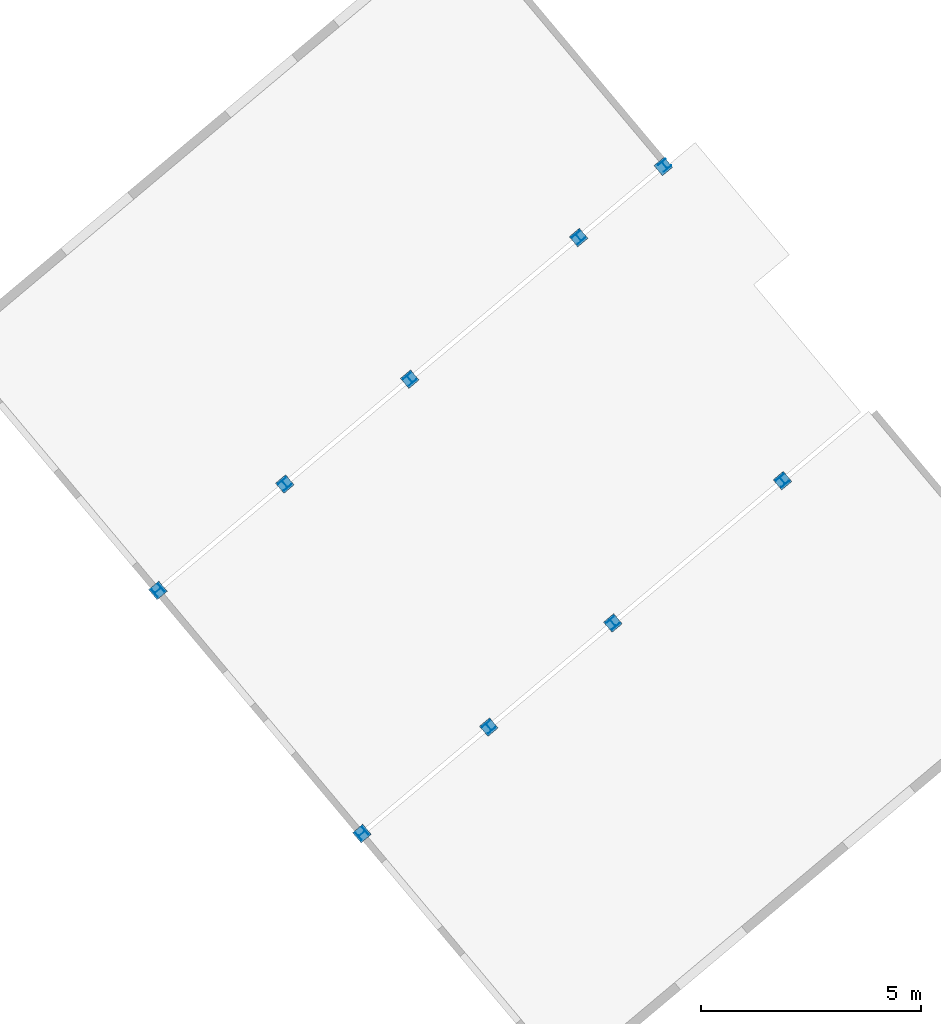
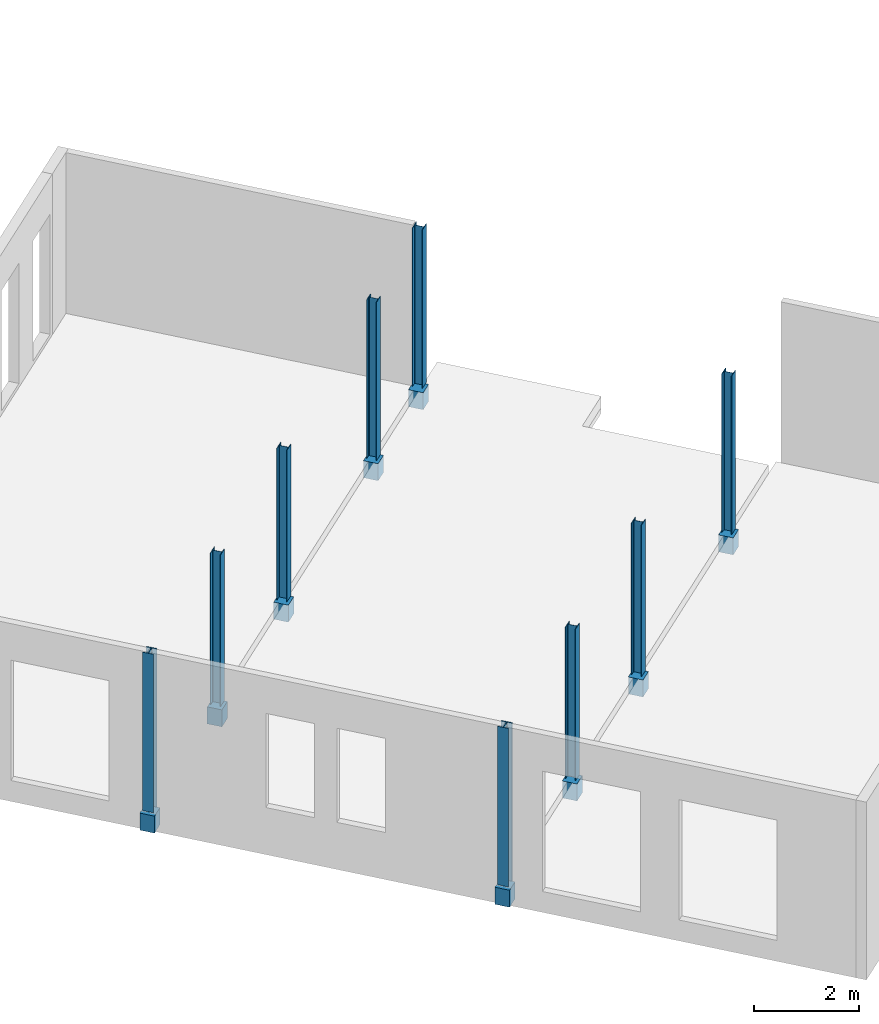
# One storey, part 1 of 3: 18 columns.
"""IFC2X3 building model written with IfcOpenShell, lengths in millimetres."""

import ifcopenshell
import ifcopenshell.guid

model = None  # the IFC model being written
_history = None  # IfcOwnerHistory: only IFC2X3 demands one
_inside = {}  # id of a spatial element -> (the spatial element, [elements in it])
_under = {}  # id of a project, library or spatial element -> (it, [spatial elements below it])
_declared = {}  # id of a project -> (the project, [libraries it declares])
_typed = {}  # id of a type object -> (the type object, [elements of that type])
_made_of = {}  # id of a material, layer set ... -> (it, [elements and type objects made of it])


def new_model(schema):
    """Start an empty IFC model of exactly this schema.

    Asked for "IFC4X3", IfcOpenShell would pick the latest addendum, in which some entities
    have other attributes; the version numbers below select the first issue.
    IFC2X3 requires an IfcOwnerHistory on every rooted entity: one is made here for all.
    """
    global model, _history
    if schema == "IFC4X3":
        model = ifcopenshell.file(schema_version=(4, 3, 0, 0))
    else:
        model = ifcopenshell.file(schema=schema)
    _inside.clear()
    _under.clear()
    _declared.clear()
    _typed.clear()
    _made_of.clear()
    _history = None
    if model.schema == "IFC2X3":
        org = make("IfcOrganization", Name="unknown")
        user = make(
            "IfcPersonAndOrganization",
            ThePerson=make("IfcPerson", FamilyName="unknown"),
            TheOrganization=org,
        )
        app = make(
            "IfcApplication",
            ApplicationDeveloper=org,
            Version="unknown",
            ApplicationFullName="unknown",
            ApplicationIdentifier="unknown",
        )
        _history = make(
            "IfcOwnerHistory",
            OwningUser=user,
            OwningApplication=app,
            ChangeAction="ADDED",
            CreationDate=0,
        )
    return model


def make(cls, **values):
    """One entity of the class cls with the attributes given. An attribute that is None is left unset."""
    return model.create_entity(
        cls, **{name: value for name, value in values.items() if value is not None}
    )


def entity(cls, *values):
    """Any entity or typed value of the class cls, its attributes in the order of the schema. None: left unset."""
    e = model.create_entity(cls)
    for i, value in enumerate(values):
        if value is not None:
            e[i] = value
    return e


def rooted(cls, **values):
    """An entity with a GlobalId (a new one), such as an element, a storey or a relation."""
    return make(cls, GlobalId=ifcopenshell.guid.new(), OwnerHistory=_history, **values)


def si_unit(unit_type, name, prefix=None):
    """IfcSIUnit, for example si_unit("LENGTHUNIT", "METRE", prefix="MILLI")."""
    return make("IfcSIUnit", UnitType=unit_type, Prefix=prefix, Name=name)


def converted_unit(unit_type, name, factor, base, dimensions=None, offset=None):
    """IfcConversionBasedUnit, such as the inch: factor (a typed value) times the base unit."""
    return make(
        "IfcConversionBasedUnit"
        if offset is None
        else "IfcConversionBasedUnitWithOffset",
        ConversionOffset=offset,
        Dimensions=None
        if dimensions is None
        else entity("IfcDimensionalExponents", *dimensions),
        UnitType=unit_type,
        Name=name,
        ConversionFactor=make(
            "IfcMeasureWithUnit", ValueComponent=factor, UnitComponent=base
        ),
    )


def derived_unit(unit_type, elements):
    """IfcDerivedUnit: a product of units, each with its exponent."""
    return make(
        "IfcDerivedUnit",
        Elements=[
            make("IfcDerivedUnitElement", Unit=unit, Exponent=power)
            for unit, power in elements
        ],
        UnitType=unit_type,
    )


def assignment(units):
    """IfcUnitAssignment: the units of a project."""
    return None if units is None else make("IfcUnitAssignment", Units=units)


def point(xyz):
    """IfcCartesianPoint."""
    return None if xyz is None else make("IfcCartesianPoint", Coordinates=xyz)


def direction(xyz):
    """IfcDirection."""
    return None if xyz is None else make("IfcDirection", DirectionRatios=xyz)


def frame(location, z_axis=None, x_axis=None):
    """IfcAxis2Placement3D, a coordinate frame: its origin and axes. An axis left out is left unset."""
    return make(
        "IfcAxis2Placement3D",
        Location=point(location),
        Axis=direction(z_axis),
        RefDirection=direction(x_axis),
    )


def frame_2d(location, x_axis=None):
    """IfcAxis2Placement2D, a coordinate frame in the plane: its origin and x axis."""
    return make(
        "IfcAxis2Placement2D", Location=point(location), RefDirection=direction(x_axis)
    )


def origin():
    """The frame at (0, 0, 0) with its axes left unset."""
    return frame((0.0, 0.0, 0.0))


def origin_2d_with_axis():
    """The frame at (0, 0) in the plane with the x axis (1, 0) written out."""
    return frame_2d((0.0, 0.0), x_axis=(1.0, 0.0))


def place(relative_to, where):
    """IfcLocalPlacement: puts the frame where relative to a parent placement (None: the world)."""
    return make(
        "IfcLocalPlacement", PlacementRelTo=relative_to, RelativePlacement=where
    )


def context(
    kind, dimensions, precision=None, world=None, true_north=None, identifier=None
):
    """IfcGeometricRepresentationContext, for example the 3D "Model" context."""
    return make(
        "IfcGeometricRepresentationContext",
        ContextIdentifier=identifier,
        ContextType=kind,
        CoordinateSpaceDimension=dimensions,
        Precision=precision,
        WorldCoordinateSystem=world,
        TrueNorth=true_north,
    )


def subcontext(parent, identifier, kind, view, scale=None):
    """IfcGeometricRepresentationSubContext, for example "Body" below "Model"."""
    return make(
        "IfcGeometricRepresentationSubContext",
        ContextIdentifier=identifier,
        ContextType=kind,
        ParentContext=parent,
        TargetScale=scale,
        TargetView=view,
    )


def project(units=None, contexts=None):
    """IfcProject with its units and contexts."""
    return rooted(
        "IfcProject",
        Name="project",
        RepresentationContexts=contexts,
        UnitsInContext=assignment(units),
    )


def spatial(cls, under=None, at=None, **own):
    """A site, building, storey or space (cls), placed at a placement, below another one or the project."""
    s = rooted(cls, ObjectPlacement=at, **own)
    if under is not None:
        _under.setdefault(under.id(), (under, []))[1].append(s)
    return s


def profile(cls, at=None, kind="AREA", **sizes):
    """A parametric profile (cls). Its sizes go by their IFC names, for example OverallWidth=200.0."""
    return make(cls, ProfileType=kind, Position=at, **sizes)


def rectangle(**sizes):
    """IfcRectangleProfileDef."""
    return profile("IfcRectangleProfileDef", **sizes)


def i_section(**sizes):
    """IfcIShapeProfileDef."""
    return profile("IfcIShapeProfileDef", **sizes)


def extrude(swept, where, along, depth):
    """IfcExtrudedAreaSolid: the profile swept, set in the frame where, extruded along a direction by depth."""
    return make(
        "IfcExtrudedAreaSolid",
        SweptArea=swept,
        Position=where,
        ExtrudedDirection=direction(along),
        Depth=depth,
    )


def faces_of(points, faces, orient=None, outer=None):
    """IfcFace entities. A face is a list of loops; a loop is a list of indices into points, from 0.

    orient and outer hold one flag for each loop. By default every Orientation is true, the
    first loop of a face is its IfcFaceOuterBound and the others are IfcFaceBound.
    """
    made = []
    for i, loops in enumerate(faces):
        bounds = []
        for j, loop in enumerate(loops):
            is_outer = j == 0 if outer is None else outer[i][j]
            bounds.append(
                make(
                    "IfcFaceOuterBound" if is_outer else "IfcFaceBound",
                    Bound=make("IfcPolyLoop", Polygon=[points[k] for k in loop]),
                    Orientation=True if orient is None else orient[i][j],
                )
            )
        made.append(make("IfcFace", Bounds=bounds))
    return made


def faceted_brep(points, faces, orient=None, outer=None, voids=None):
    """IfcFacetedBrep: a solid bounded by flat faces; with voids (closed shells), ...WithVoids."""
    shared = [point(p) for p in points]
    hull = make("IfcClosedShell", CfsFaces=faces_of(shared, faces, orient, outer))
    if voids is None:
        return make("IfcFacetedBrep", Outer=hull)
    return make(
        "IfcFacetedBrepWithVoids",
        Outer=hull,
        Voids=[
            make(cls, CfsFaces=faces_of(shared, fs, o, b)) for cls, fs, o, b in voids
        ],
    )


def shape(context_of_items, identifier, shape_type, items):
    """IfcShapeRepresentation: the items that make up one representation, for example the "Body"."""
    return make(
        "IfcShapeRepresentation",
        ContextOfItems=context_of_items,
        RepresentationIdentifier=identifier,
        RepresentationType=shape_type,
        Items=items,
    )


def source(mapping_origin, context_of_items, identifier, shape_type, items):
    """IfcRepresentationMap: a shape defined once, which mapped items show again and again."""
    return make(
        "IfcRepresentationMap",
        MappingOrigin=mapping_origin,
        MappedRepresentation=shape(context_of_items, identifier, shape_type, items),
    )


def transform(
    local_origin,
    x_axis=None,
    y_axis=None,
    z_axis=None,
    scale=None,
    scale2=None,
    scale3=None,
    uniform=True,
):
    """IfcCartesianTransformationOperator3D, or its non-uniform kind. x_axis, y_axis, z_axis: its Axis1, 2, 3."""
    if uniform:
        return make(
            "IfcCartesianTransformationOperator3D",
            Axis1=direction(x_axis),
            Axis2=direction(y_axis),
            LocalOrigin=point(local_origin),
            Scale=scale,
            Axis3=direction(z_axis),
        )
    return make(
        "IfcCartesianTransformationOperator3DnonUniform",
        Axis1=direction(x_axis),
        Axis2=direction(y_axis),
        LocalOrigin=point(local_origin),
        Scale=scale,
        Axis3=direction(z_axis),
        Scale2=scale2,
        Scale3=scale3,
    )


def mapped(mapping_source, mapping_target):
    """IfcMappedItem: shows the shape of a source again, moved by a transform."""
    return make(
        "IfcMappedItem", MappingSource=mapping_source, MappingTarget=mapping_target
    )


def material(Name=None, Category=None):
    """IfcMaterial."""
    return make("IfcMaterial", Name=Name, Category=Category)


def material_list(materials):
    """IfcMaterialList."""
    return make("IfcMaterialList", Materials=materials)


def made_of(thing, what):
    """Note that an element or type object is made of a material, layer set ...; save() writes the relation."""
    if what is not None:
        _made_of.setdefault(what.id(), (what, []))[1].append(thing)
    return thing


def type_object(cls, material=None, **own):
    """A type object (cls), such as IfcWallType, which elements share."""
    return made_of(rooted(cls, **own), material)


def type_shapes(of_type, sources):
    """Give a type object the sources (RepresentationMaps) that its elements show as mapped items."""
    of_type.RepresentationMaps = sources


def element(
    cls,
    number,
    at=None,
    inside=None,
    cuts=None,
    type_object=None,
    material=None,
    context=None,
    identifier="Body",
    shape_type=None,
    held_by="IfcProductDefinitionShape",
    body=None,
    shapes=None,
    **own,
):
    """One element of the class cls, such as IfcWall. Its Tag is "e" and its number.

    at: its placement. inside: the storey or other place that contains it. cuts: it is an
    opening in that element (IfcRelVoidsElement). A single representation is given by context,
    identifier, shape_type and body (its items); several are given by shapes. held_by: the class
    of the entity that holds the representations. save() writes the other relations.
    """
    e = rooted(cls, Tag="e%d" % number, ObjectPlacement=at, **own)
    if body is not None:
        shapes = [shape(context, identifier, shape_type, body)]
    if shapes is not None:
        e.Representation = make(held_by, Representations=shapes)
    if inside is not None:
        _inside.setdefault(inside.id(), (inside, []))[1].append(e)
    if cuts is not None:
        rooted(
            "IfcRelVoidsElement", RelatingBuildingElement=cuts, RelatedOpeningElement=e
        )
    if type_object is not None:
        _typed.setdefault(type_object.id(), (type_object, []))[1].append(e)
    return made_of(e, material)


def aggregate(whole, parts):
    """IfcRelAggregates: a whole, such as a stair, and the parts it consists of."""
    return rooted("IfcRelAggregates", RelatingObject=whole, RelatedObjects=parts)


def save(model, path):
    """Write the relations noted so far, then the file.

    IfcRelAggregates (storeys below a building ...), IfcRelContainedInSpatialStructure (elements
    in a storey), IfcRelDefinesByType, IfcRelAssociatesMaterial and IfcRelDeclares: one each for
    every whole, place, type object, material and project.
    """
    for whole, parts in _under.values():
        aggregate(whole, parts)
    for where, things in _inside.values():
        rooted(
            "IfcRelContainedInSpatialStructure",
            RelatedElements=things,
            RelatingStructure=where,
        )
    for kind, things in _typed.values():
        rooted("IfcRelDefinesByType", RelatedObjects=things, RelatingType=kind)
    for what, things in _made_of.values():
        rooted("IfcRelAssociatesMaterial", RelatedObjects=things, RelatingMaterial=what)
    for by, libraries in _declared.values():
        rooted("IfcRelDeclares", RelatingContext=by, RelatedDefinitions=libraries)
    model.write(path)


model = new_model("IFC2X3")

# Units and contexts
model_context = context("Model", 3, precision=0.01, world=origin(), true_north=direction((6.12303176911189e-17, 1.0)))
body_context = subcontext(model_context, "Body", "Model", "MODEL_VIEW")
ifc_project = project(units=[si_unit("LENGTHUNIT", "METRE", prefix="MILLI"), si_unit("AREAUNIT", "SQUARE_METRE"), si_unit("VOLUMEUNIT", "CUBIC_METRE"), converted_unit("PLANEANGLEUNIT", "DEGREE", entity("IfcRatioMeasure", 0.0174532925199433), si_unit("PLANEANGLEUNIT", "RADIAN"), dimensions=[0, 0, 0, 0, 0, 0, 0]), si_unit("MASSUNIT", "GRAM", prefix="KILO"), derived_unit("MASSDENSITYUNIT", [(si_unit("MASSUNIT", "GRAM", prefix="KILO"), 1), (si_unit("LENGTHUNIT", "METRE"), -3)]), derived_unit("MOMENTOFINERTIAUNIT", [(si_unit("LENGTHUNIT", "METRE"), 4)]), si_unit("TIMEUNIT", "SECOND"), si_unit("FREQUENCYUNIT", "HERTZ"), si_unit("THERMODYNAMICTEMPERATUREUNIT", "DEGREE_CELSIUS"), derived_unit("THERMALTRANSMITTANCEUNIT", [(si_unit("MASSUNIT", "GRAM", prefix="KILO"), 1), (si_unit("THERMODYNAMICTEMPERATUREUNIT", "KELVIN"), -1), (si_unit("TIMEUNIT", "SECOND"), -3)]), derived_unit("VOLUMETRICFLOWRATEUNIT", [(si_unit("LENGTHUNIT", "METRE"), 3), (si_unit("TIMEUNIT", "SECOND"), -1)]), si_unit("ELECTRICCURRENTUNIT", "AMPERE"), si_unit("ELECTRICVOLTAGEUNIT", "VOLT"), si_unit("POWERUNIT", "WATT"), si_unit("FORCEUNIT", "NEWTON", prefix="KILO"), si_unit("ILLUMINANCEUNIT", "LUX"), si_unit("LUMINOUSFLUXUNIT", "LUMEN"), si_unit("LUMINOUSINTENSITYUNIT", "CANDELA"), derived_unit("USERDEFINED", [(si_unit("MASSUNIT", "GRAM", prefix="KILO"), -1), (si_unit("LENGTHUNIT", "METRE"), -2), (si_unit("TIMEUNIT", "SECOND"), 3), (si_unit("LUMINOUSFLUXUNIT", "LUMEN"), 1)]), derived_unit("LINEARVELOCITYUNIT", [(si_unit("LENGTHUNIT", "METRE"), 1), (si_unit("TIMEUNIT", "SECOND"), -1)]), si_unit("PRESSUREUNIT", "PASCAL"), derived_unit("USERDEFINED", [(si_unit("LENGTHUNIT", "METRE"), -2), (si_unit("MASSUNIT", "GRAM", prefix="KILO"), 1), (si_unit("TIMEUNIT", "SECOND"), -2)]), derived_unit("LINEARFORCEUNIT", [(si_unit("MASSUNIT", "GRAM", prefix="KILO"), 1), (si_unit("LENGTHUNIT", "METRE"), 1), (si_unit("TIMEUNIT", "SECOND"), -2), (si_unit("LENGTHUNIT", "METRE"), -1)]), derived_unit("PLANARFORCEUNIT", [(si_unit("MASSUNIT", "GRAM", prefix="KILO"), 1), (si_unit("LENGTHUNIT", "METRE"), 1), (si_unit("TIMEUNIT", "SECOND"), -2), (si_unit("LENGTHUNIT", "METRE"), -2)])], contexts=[model_context])

# Site, building, storey
site_placement = place(None, origin())
site = spatial("IfcSite", under=ifc_project, at=site_placement, Name="Default", CompositionType="ELEMENT")
building_placement = place(site_placement, origin())
building = spatial("IfcBuilding", under=site, at=building_placement, CompositionType="ELEMENT")
storey_placement = place(building_placement, origin())
storey = spatial("IfcBuildingStorey", under=building, at=storey_placement, Name="00 begane grond", CompositionType="ELEMENT", Elevation=-2.70716782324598e-13)

# Columns
ifc_material_1 = material(Name="<Unnamed>")
ifc_material_2 = material(Name="00_Staal_generiek")
ifc_material_list_1 = material_list([ifc_material_1, ifc_material_2])
column_type_1 = type_object("IfcColumnType", Name="BERSnl_28_SCO_TLB_kolom hea_gen_ISR:kolom gen hea220", PredefinedType="COLUMN", material=ifc_material_list_1)
shared_shape_1 = source(origin(), body_context, "Body", "SweptSolid", [
    extrude(i_section(OverallWidth=219.999999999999, OverallDepth=210.0, WebThickness=7.00000000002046, FlangeThickness=11.0000000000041, FilletRadius=17.9999999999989, at=frame_2d((-4.35562697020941e-12, 1.54187773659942e-12), x_axis=(1.0, 0.0))), frame((9433.40168988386, -11096.3878830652, 1400.0), z_axis=(0.0, 0.0, 1.0), x_axis=(-0.64278760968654, 0.766044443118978, 0.0)), (0.0, 0.0, 1.0), 3685.0),
])
type_shapes(column_type_1, [shared_shape_1])
column_1_placement = place(storey_placement, origin())
element("IfcColumn", 1, at=column_1_placement, inside=storey, type_object=column_type_1, Name="BERSnl_28_SCO_TLB_kolom hea_gen_ISR:kolom gen hea220", ObjectType="BERSnl_28_SCO_TLB_kolom hea_gen_ISR:kolom gen hea220", context=body_context, shape_type="MappedRepresentation", body=[
    mapped(shared_shape_1, transform((0.0, 0.0, 0.0), scale=1.0)),
])
column_type_2 = type_object("IfcColumnType", Name="BERSnl_28_SCO_TLB_kolom vierkant beton_gen_ISR:300x300", PredefinedType="COLUMN", material=ifc_material_1)
shared_shape_2 = source(origin(), body_context, "Body", "SweptSolid", [
    extrude(rectangle(XDim=300.000000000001, YDim=299.999999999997, at=origin_2d_with_axis()), frame((9433.83894444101, -11096.0209829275, 965.0), z_axis=(0.0, 0.0, 1.0), x_axis=(-0.642787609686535, 0.766044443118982, 0.0)), (0.0, 0.0, 1.0), 395.0),
])
type_shapes(column_type_2, [shared_shape_2])
column_2_placement = place(storey_placement, origin())
element("IfcColumn", 2, at=column_2_placement, inside=storey, type_object=column_type_2, Name="BERSnl_28_SCO_TLB_kolom vierkant beton_gen_ISR:300x300", ObjectType="BERSnl_28_SCO_TLB_kolom vierkant beton_gen_ISR:300x300", context=body_context, shape_type="MappedRepresentation", body=[
    mapped(shared_shape_2, transform((0.0, 0.0, 0.0), scale=1.0)),
])
ifc_material_list_2 = material_list([ifc_material_1, ifc_material_2])
column_type_3 = type_object("IfcColumnType", Name="BERSnl_28_SCO_TLB_kolom hea_gen_ISR:kolom gen hea220", PredefinedType="COLUMN", material=ifc_material_list_2)
shared_shape_3 = source(origin(), body_context, "Body", "SweptSolid", [
    extrude(i_section(OverallWidth=220.0, OverallDepth=210.0, WebThickness=7.000000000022, FlangeThickness=11.0000000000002, FilletRadius=17.9999999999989, at=frame_2d((4.71089833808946e-12, -1.12265752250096e-12), x_axis=(1.0, 0.0))), frame((12311.2876397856, -8681.94762686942, 1400.0), z_axis=(0.0, 0.0, 1.0), x_axis=(0.766044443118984, 0.642787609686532, 0.0)), (0.0, 0.0, 1.0), 3524.99999999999),
])
type_shapes(column_type_3, [shared_shape_3])
column_3_placement = place(storey_placement, origin())
element("IfcColumn", 3, at=column_3_placement, inside=storey, type_object=column_type_3, Name="BERSnl_28_SCO_TLB_kolom hea_gen_ISR:kolom gen hea220", ObjectType="BERSnl_28_SCO_TLB_kolom hea_gen_ISR:kolom gen hea220", context=body_context, shape_type="MappedRepresentation", body=[
    mapped(shared_shape_3, transform((0.0, 0.0, 0.0), scale=1.0)),
])
column_type_4 = type_object("IfcColumnType", Name="BERSnl_28_SCO_TLB_kolom vierkant beton_gen_ISR:300x300", PredefinedType="COLUMN", material=ifc_material_1)
shared_shape_4 = source(origin(), body_context, "Body", "SweptSolid", [
    extrude(rectangle(XDim=299.999999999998, YDim=300.000000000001, at=frame_2d((4.12114786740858e-13, -3.41060513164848e-13), x_axis=(1.0, 0.0))), frame((12311.2671080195, -8681.57207212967, 965.0), z_axis=(0.0, 0.0, 1.0), x_axis=(-0.642787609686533, 0.766044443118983, 0.0)), (0.0, 0.0, 1.0), 395.0),
])
type_shapes(column_type_4, [shared_shape_4])
column_4_placement = place(storey_placement, origin())
element("IfcColumn", 4, at=column_4_placement, inside=storey, type_object=column_type_4, Name="BERSnl_28_SCO_TLB_kolom vierkant beton_gen_ISR:300x300", ObjectType="BERSnl_28_SCO_TLB_kolom vierkant beton_gen_ISR:300x300", context=body_context, shape_type="MappedRepresentation", body=[
    mapped(shared_shape_4, transform((0.0, 0.0, 0.0), scale=1.0)),
])
ifc_material_list_3 = material_list([ifc_material_1, ifc_material_2])
column_type_5 = type_object("IfcColumnType", Name="BERSnl_28_SCO_TLB_kolom hea_gen_ISR:kolom gen hea220", PredefinedType="COLUMN", material=ifc_material_list_3)
shared_shape_5 = source(origin(), body_context, "Body", "SweptSolid", [
    extrude(i_section(OverallWidth=220.0, OverallDepth=210.0, WebThickness=7.000000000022, FlangeThickness=11.0000000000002, FilletRadius=17.9999999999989, at=frame_2d((4.71089833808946e-12, -1.12265752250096e-12), x_axis=(1.0, 0.0))), frame((15127.235172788, -6319.08709051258, 1400.0), z_axis=(0.0, 0.0, 1.0), x_axis=(0.766044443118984, 0.642787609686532, 0.0)), (0.0, 0.0, 1.0), 3524.99999999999),
])
type_shapes(column_type_5, [shared_shape_5])
column_5_placement = place(storey_placement, origin())
element("IfcColumn", 5, at=column_5_placement, inside=storey, type_object=column_type_5, Name="BERSnl_28_SCO_TLB_kolom hea_gen_ISR:kolom gen hea220", ObjectType="BERSnl_28_SCO_TLB_kolom hea_gen_ISR:kolom gen hea220", context=body_context, shape_type="MappedRepresentation", body=[
    mapped(shared_shape_5, transform((0.0, 0.0, 0.0), scale=1.0)),
])
column_type_6 = type_object("IfcColumnType", Name="BERSnl_28_SCO_TLB_kolom vierkant beton_gen_ISR:300x300", PredefinedType="COLUMN", material=ifc_material_1)
shared_shape_6 = source(origin(), body_context, "Body", "SweptSolid", [
    extrude(rectangle(XDim=299.999999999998, YDim=300.000000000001, at=frame_2d((4.12114786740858e-13, -3.41060513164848e-13), x_axis=(1.0, 0.0))), frame((15127.2146410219, -6318.71153577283, 965.0), z_axis=(0.0, 0.0, 1.0), x_axis=(-0.642787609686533, 0.766044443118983, 0.0)), (0.0, 0.0, 1.0), 395.0),
])
type_shapes(column_type_6, [shared_shape_6])
column_6_placement = place(storey_placement, origin())
element("IfcColumn", 6, at=column_6_placement, inside=storey, type_object=column_type_6, Name="BERSnl_28_SCO_TLB_kolom vierkant beton_gen_ISR:300x300", ObjectType="BERSnl_28_SCO_TLB_kolom vierkant beton_gen_ISR:300x300", context=body_context, shape_type="MappedRepresentation", body=[
    mapped(shared_shape_6, transform((0.0, 0.0, 0.0), scale=1.0)),
])
ifc_material_list_4 = material_list([ifc_material_1, ifc_material_2])
column_type_7 = type_object("IfcColumnType", Name="BERSnl_28_SCO_TLB_kolom hea_gen_ISR:kolom gen hea220", PredefinedType="COLUMN", material=ifc_material_list_4)
shared_shape_7 = source(origin(), body_context, "Body", "SweptSolid", [
    extrude(i_section(OverallWidth=220.0, OverallDepth=210.000000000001, WebThickness=7.0000000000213, FlangeThickness=11.0000000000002, FilletRadius=17.9999999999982, at=frame_2d((7.68096697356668e-12, -4.32720526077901e-12), x_axis=(1.0, 0.0))), frame((18975.7048400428, -3089.83761212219, 1400.0), z_axis=(0.0, 0.0, 1.0), x_axis=(0.766044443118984, 0.642787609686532, 0.0)), (0.0, 0.0, 1.0), 3685.0),
])
type_shapes(column_type_7, [shared_shape_7])
column_7_placement = place(storey_placement, origin())
element("IfcColumn", 7, at=column_7_placement, inside=storey, type_object=column_type_7, Name="BERSnl_28_SCO_TLB_kolom hea_gen_ISR:kolom gen hea220", ObjectType="BERSnl_28_SCO_TLB_kolom hea_gen_ISR:kolom gen hea220", context=body_context, shape_type="MappedRepresentation", body=[
    mapped(shared_shape_7, transform((0.0, 0.0, 0.0), scale=1.0)),
])
column_type_8 = type_object("IfcColumnType", Name="BERSnl_28_SCO_TLB_kolom vierkant beton_gen_ISR:300x300", PredefinedType="COLUMN", material=ifc_material_1)
shared_shape_8 = source(origin(), body_context, "Body", "SweptSolid", [
    extrude(rectangle(XDim=299.999999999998, YDim=300.000000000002, at=origin_2d_with_axis()), frame((18975.5114322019, -3089.60711763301, 965.0), z_axis=(0.0, 0.0, 1.0), x_axis=(-0.642787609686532, 0.766044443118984, 0.0)), (0.0, 0.0, 1.0), 395.0),
])
type_shapes(column_type_8, [shared_shape_8])
column_8_placement = place(storey_placement, origin())
element("IfcColumn", 8, at=column_8_placement, inside=storey, type_object=column_type_8, Name="BERSnl_28_SCO_TLB_kolom vierkant beton_gen_ISR:300x300", ObjectType="BERSnl_28_SCO_TLB_kolom vierkant beton_gen_ISR:300x300", context=body_context, shape_type="MappedRepresentation", body=[
    mapped(shared_shape_8, transform((0.0, 0.0, 0.0), scale=1.0)),
])
ifc_material_list_5 = material_list([ifc_material_1, ifc_material_2])
column_type_9 = type_object("IfcColumnType", Name="BERSnl_28_SCO_TLB_kolom hea_gen_ISR:kolom gen hea220", PredefinedType="COLUMN", material=ifc_material_list_5)
shared_shape_9 = source(origin(), body_context, "Body", "SweptSolid", [
    extrude(i_section(OverallWidth=220.0, OverallDepth=210.0, WebThickness=7.00000000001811, FlangeThickness=11.0000000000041, FilletRadius=17.9999999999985, at=frame_2d((-5.41433564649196e-12, 2.98427949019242e-13), x_axis=(1.0, 0.0))), frame((4805.33090013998, -5580.8678926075, 1400.0), z_axis=(0.0, 0.0, 1.0), x_axis=(-0.642787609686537, 0.76604444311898, 0.0)), (0.0, 0.0, 1.0), 3685.0),
])
type_shapes(column_type_9, [shared_shape_9])
column_9_placement = place(storey_placement, origin())
element("IfcColumn", 9, at=column_9_placement, inside=storey, type_object=column_type_9, Name="BERSnl_28_SCO_TLB_kolom hea_gen_ISR:kolom gen hea220", ObjectType="BERSnl_28_SCO_TLB_kolom hea_gen_ISR:kolom gen hea220", context=body_context, shape_type="MappedRepresentation", body=[
    mapped(shared_shape_9, transform((0.0, 0.0, 0.0), scale=1.0)),
])
column_type_10 = type_object("IfcColumnType", Name="BERSnl_28_SCO_TLB_kolom vierkant beton_gen_ISR:300x300", PredefinedType="COLUMN", material=ifc_material_1)
shared_shape_10 = source(origin(), body_context, "Body", "Brep", [
    faceted_brep([(0.0, 229.813332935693, 395.0), (192.83628290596, 0.0, 395.0), (235.462752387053, 35.7678548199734, 395.0), (350.3694188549, 132.185996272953, 395.0), (422.649615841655, 192.836282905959, 395.0), (358.370854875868, 269.44072721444, 395.0), (294.092093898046, 346.045171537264, 395.0), (229.813332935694, 422.649615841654, 395.0), (157.533135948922, 361.999329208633, 395.0), (42.6264694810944, 265.581187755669, 395.0), (192.83628290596, 0.0, 0.0), (0.0, 229.813332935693, 0.0), (42.6264694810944, 265.581187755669, 0.0), (157.533135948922, 361.999329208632, 0.0), (229.813332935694, 422.649615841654, 0.0), (294.092093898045, 346.045171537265, 0.0), (358.370854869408, 269.44072722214, 0.0), (421.055750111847, 194.735778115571, 0.0), (348.775553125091, 134.085491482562, 0.0), (350.3694188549, 132.185996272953, 0.0), (235.462752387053, 35.7678548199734, 0.0), (229.813332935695, 422.649615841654, 130.0), (350.369418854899, 132.185996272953, 130.0), (422.649615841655, 192.836282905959, 130.0), (421.055750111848, 194.73577811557, 130.0), (348.77555312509, 134.085491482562, 130.0)], [[[0, 1, 2, 3, 4, 5, 6, 7, 8, 9]], [[10, 11, 12, 13, 14, 15, 16, 17, 18, 19, 20]], [[11, 0, 9, 8, 7, 21, 14, 13, 12]], [[1, 0, 11, 10]], [[1, 10, 20, 19, 22, 23, 4, 3, 2]], [[4, 23, 24, 17, 16, 15, 14, 21, 7, 6, 5]], [[25, 24, 23, 22]], [[18, 25, 22, 19]], [[24, 25, 18, 17]]]),
])
type_shapes(column_type_10, [shared_shape_10])
column_10_placement = place(storey_placement, frame((4594.44334677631, -5791.82580039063, 965.0)))
element("IfcColumn", 10, at=column_10_placement, inside=storey, type_object=column_type_10, material=ifc_material_1, Name="BERSnl_28_SCO_TLB_kolom vierkant beton_gen_ISR:300x300", ObjectType="BERSnl_28_SCO_TLB_kolom vierkant beton_gen_ISR:300x300", context=body_context, shape_type="MappedRepresentation", body=[
    mapped(shared_shape_10, transform((0.0, 0.0, 0.0), scale=1.0)),
])
ifc_material_list_6 = material_list([ifc_material_1, ifc_material_2])
column_type_11 = type_object("IfcColumnType", Name="BERSnl_28_SCO_TLB_kolom hea_gen_ISR:kolom gen hea220", PredefinedType="COLUMN", material=ifc_material_list_6)
shared_shape_11 = source(origin(), body_context, "Body", "SweptSolid", [
    extrude(i_section(OverallWidth=219.999999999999, OverallDepth=210.0, WebThickness=7.00000000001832, FlangeThickness=11.0000000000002, FilletRadius=17.9999999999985, at=frame_2d((4.70379291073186e-12, -1.12265752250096e-12), x_axis=(1.0, 0.0))), frame((7683.87016167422, -3167.1992749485, 1400.0), z_axis=(0.0, 0.0, 1.0), x_axis=(0.766044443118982, 0.642787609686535, 0.0)), (0.0, 0.0, 1.0), 3524.99999999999),
])
type_shapes(column_type_11, [shared_shape_11])
column_11_placement = place(storey_placement, origin())
element("IfcColumn", 11, at=column_11_placement, inside=storey, type_object=column_type_11, Name="BERSnl_28_SCO_TLB_kolom hea_gen_ISR:kolom gen hea220", ObjectType="BERSnl_28_SCO_TLB_kolom hea_gen_ISR:kolom gen hea220", context=body_context, shape_type="MappedRepresentation", body=[
    mapped(shared_shape_11, transform((0.0, 0.0, 0.0), scale=1.0)),
])
column_type_12 = type_object("IfcColumnType", Name="BERSnl_28_SCO_TLB_kolom vierkant beton_gen_ISR:300x300", PredefinedType="COLUMN", material=ifc_material_1)
shared_shape_12 = source(origin(), body_context, "Body", "SweptSolid", [
    extrude(rectangle(XDim=298.988949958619, YDim=300.000000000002, at=frame_2d((2.12691020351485e-09, -1.4495071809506e-12), x_axis=(1.0, 0.0))), frame((7683.5246846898, -3166.43646557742, 965.0), z_axis=(0.0, 0.0, 1.0), x_axis=(-0.642787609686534, 0.766044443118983, 0.0)), (0.0, 0.0, 1.0), 395.0),
])
type_shapes(column_type_12, [shared_shape_12])
column_12_placement = place(storey_placement, origin())
element("IfcColumn", 12, at=column_12_placement, inside=storey, type_object=column_type_12, Name="BERSnl_28_SCO_TLB_kolom vierkant beton_gen_ISR:300x300", ObjectType="BERSnl_28_SCO_TLB_kolom vierkant beton_gen_ISR:300x300", context=body_context, shape_type="MappedRepresentation", body=[
    mapped(shared_shape_12, transform((0.0, 0.0, 0.0), scale=1.0)),
])
ifc_material_list_7 = material_list([ifc_material_1, ifc_material_2])
column_type_13 = type_object("IfcColumnType", Name="BERSnl_28_SCO_TLB_kolom hea_gen_ISR:kolom gen hea220", PredefinedType="COLUMN", material=ifc_material_list_7)
shared_shape_13 = source(origin(), body_context, "Body", "SweptSolid", [
    extrude(i_section(OverallWidth=220.0, OverallDepth=210.000000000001, WebThickness=7.00000000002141, FlangeThickness=11.0000000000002, FilletRadius=17.9999999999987, at=frame_2d((4.67537120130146e-12, -1.17950094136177e-12), x_axis=(1.0, 0.0))), frame((10518.2346012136, -788.885119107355, 1400.0), z_axis=(0.0, 0.0, 1.0), x_axis=(0.766044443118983, 0.642787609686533, 0.0)), (0.0, 0.0, 1.0), 3524.99999999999),
])
type_shapes(column_type_13, [shared_shape_13])
column_13_placement = place(storey_placement, origin())
element("IfcColumn", 13, at=column_13_placement, inside=storey, type_object=column_type_13, Name="BERSnl_28_SCO_TLB_kolom hea_gen_ISR:kolom gen hea220", ObjectType="BERSnl_28_SCO_TLB_kolom hea_gen_ISR:kolom gen hea220", context=body_context, shape_type="MappedRepresentation", body=[
    mapped(shared_shape_13, transform((0.0, 0.0, 0.0), scale=1.0)),
])
column_type_14 = type_object("IfcColumnType", Name="BERSnl_28_SCO_TLB_kolom vierkant beton_gen_ISR:300x300", PredefinedType="COLUMN", material=ifc_material_1)
shared_shape_14 = source(origin(), body_context, "Body", "SweptSolid", [
    extrude(rectangle(XDim=298.988949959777, YDim=300.000000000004, at=frame_2d((2.51247911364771e-11, -2.70006239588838e-12), x_axis=(1.0, 0.0))), frame((10517.8891242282, -788.122309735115, 965.0), z_axis=(0.0, 0.0, 1.0), x_axis=(-0.642787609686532, 0.766044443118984, 0.0)), (0.0, 0.0, 1.0), 395.0),
])
type_shapes(column_type_14, [shared_shape_14])
column_14_placement = place(storey_placement, origin())
element("IfcColumn", 14, at=column_14_placement, inside=storey, type_object=column_type_14, Name="BERSnl_28_SCO_TLB_kolom vierkant beton_gen_ISR:300x300", ObjectType="BERSnl_28_SCO_TLB_kolom vierkant beton_gen_ISR:300x300", context=body_context, shape_type="MappedRepresentation", body=[
    mapped(shared_shape_14, transform((0.0, 0.0, 0.0), scale=1.0)),
])
ifc_material_list_8 = material_list([ifc_material_1, ifc_material_2])
column_type_15 = type_object("IfcColumnType", Name="BERSnl_28_SCO_TLB_kolom hea_gen_ISR:kolom gen hea220", PredefinedType="COLUMN", material=ifc_material_list_8)
shared_shape_15 = source(origin(), body_context, "Body", "SweptSolid", [
    extrude(i_section(OverallWidth=220.0, OverallDepth=210.000000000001, WebThickness=7.00000000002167, FlangeThickness=11.0000000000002, FilletRadius=17.9999999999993, at=frame_2d((6.45883346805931e-12, -2.41584530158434e-12), x_axis=(1.0, 0.0))), frame((14348.6841319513, 2425.48419755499, 1400.0), z_axis=(0.0, 0.0, 1.0), x_axis=(0.766044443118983, 0.642787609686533, 0.0)), (0.0, 0.0, 1.0), 3685.0),
])
type_shapes(column_type_15, [shared_shape_15])
column_15_placement = place(storey_placement, origin())
element("IfcColumn", 15, at=column_15_placement, inside=storey, type_object=column_type_15, Name="BERSnl_28_SCO_TLB_kolom hea_gen_ISR:kolom gen hea220", ObjectType="BERSnl_28_SCO_TLB_kolom hea_gen_ISR:kolom gen hea220", context=body_context, shape_type="MappedRepresentation", body=[
    mapped(shared_shape_15, transform((0.0, 0.0, 0.0), scale=1.0)),
])
column_type_16 = type_object("IfcColumnType", Name="BERSnl_28_SCO_TLB_kolom vierkant beton_gen_ISR:300x300", PredefinedType="COLUMN", material=ifc_material_1)
shared_shape_16 = source(origin(), body_context, "Body", "Brep", [
    faceted_brep([(229.813332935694, 421.87510657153, 395.0), (0.0, 229.038823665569, 395.0), (63.6288705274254, 153.208888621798, 395.0), (127.907631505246, 76.6044442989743, 395.0), (192.186392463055, 0.0, 395.0), (421.999725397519, 192.836282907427, 395.0), (357.720964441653, 269.440727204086, 395.0), (293.442203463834, 346.045171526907, 395.0), (357.720964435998, 269.440727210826, 0.0), (421.999725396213, 192.836282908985, 0.0), (192.186392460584, 2.94404500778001e-09, 0.0), (127.907631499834, 76.6044443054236, 0.0), (63.6288705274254, 153.208888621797, 0.0), (0.0, 229.038823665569, 0.0), (226.996597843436, 419.511585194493, 0.0), (290.6254683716, 343.681650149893, 0.0), (293.442203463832, 346.045171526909, 0.0), (229.813332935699, 421.875106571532, 130.0), (226.996597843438, 419.511585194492, 130.0), (0.0, 229.038823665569, 130.0), (192.186392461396, 1.97623251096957e-09, 130.0), (421.999725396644, 192.836282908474, 130.0), (293.442203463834, 346.045171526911, 130.0), (290.6254683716, 343.681650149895, 130.0)], [[[0, 1, 2, 3, 4, 5, 6, 7]], [[8, 9, 10, 11, 12, 13, 14, 15, 16]], [[1, 0, 17, 18, 14, 13, 19]], [[19, 13, 12, 11, 10, 20, 4, 3, 2, 1]], [[17, 0, 7, 6, 5, 21, 9, 8, 16, 22]], [[23, 18, 17, 22]], [[15, 23, 22, 16]], [[18, 23, 15, 14]], [[5, 4, 20, 10, 9, 21]]]),
])
type_shapes(column_type_16, [shared_shape_16])
column_16_placement = place(storey_placement, frame((14137.2843531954, 2215.02324566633, 965.0)))
element("IfcColumn", 16, at=column_16_placement, inside=storey, type_object=column_type_16, material=ifc_material_1, Name="BERSnl_28_SCO_TLB_kolom vierkant beton_gen_ISR:300x300", ObjectType="BERSnl_28_SCO_TLB_kolom vierkant beton_gen_ISR:300x300", context=body_context, shape_type="MappedRepresentation", body=[
    mapped(shared_shape_16, transform((0.0, 0.0, 0.0), scale=1.0)),
])
ifc_material_list_9 = material_list([ifc_material_1, ifc_material_2])
column_type_17 = type_object("IfcColumnType", Name="BERSnl_28_SCO_TLB_kolom hea_gen_ISR:kolom gen hea220", PredefinedType="COLUMN", material=ifc_material_list_9)
shared_shape_17 = source(origin(), body_context, "Body", "SweptSolid", [
    extrude(i_section(OverallWidth=220.0, OverallDepth=210.000000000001, WebThickness=7.00000000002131, FlangeThickness=11.0000000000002, FilletRadius=17.9999999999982, at=frame_2d((4.70379291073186e-12, -1.13686837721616e-12), x_axis=(1.0, 0.0))), frame((16301.8939007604, 4064.18126600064, 1400.0), z_axis=(0.0, 0.0, 1.0), x_axis=(0.766044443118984, 0.642787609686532, 0.0)), (0.0, 0.0, 1.0), 3685.0),
])
type_shapes(column_type_17, [shared_shape_17])
column_17_placement = place(storey_placement, origin())
element("IfcColumn", 17, at=column_17_placement, inside=storey, type_object=column_type_17, Name="BERSnl_28_SCO_TLB_kolom hea_gen_ISR:kolom gen hea220", ObjectType="BERSnl_28_SCO_TLB_kolom hea_gen_ISR:kolom gen hea220", context=body_context, shape_type="MappedRepresentation", body=[
    mapped(shared_shape_17, transform((0.0, 0.0, 0.0), scale=1.0)),
])
column_type_18 = type_object("IfcColumnType", Name="BERSnl_28_SCO_TLB_kolom vierkant beton_gen_ISR:300x300", PredefinedType="COLUMN", material=ifc_material_1)
shared_shape_18 = source(origin(), body_context, "Body", "SweptSolid", [
    extrude(rectangle(XDim=298.988949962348, YDim=300.000000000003, at=frame_2d((2.61337618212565e-11, -2.1316282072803e-12), x_axis=(1.0, 0.0))), frame((16270.7337699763, 4039.08751073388, 965.0), z_axis=(0.0, 0.0, 1.0), x_axis=(-0.642787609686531, 0.766044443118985, 0.0)), (0.0, 0.0, 1.0), 395.0),
])
type_shapes(column_type_18, [shared_shape_18])
column_18_placement = place(storey_placement, origin())
element("IfcColumn", 18, at=column_18_placement, inside=storey, type_object=column_type_18, Name="BERSnl_28_SCO_TLB_kolom vierkant beton_gen_ISR:300x300", ObjectType="BERSnl_28_SCO_TLB_kolom vierkant beton_gen_ISR:300x300", context=body_context, shape_type="MappedRepresentation", body=[
    mapped(shared_shape_18, transform((0.0, 0.0, 0.0), scale=1.0)),
])

save(model, "model.ifc")
